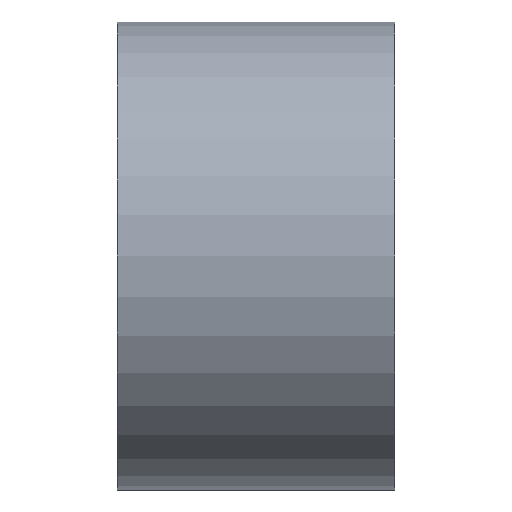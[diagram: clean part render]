
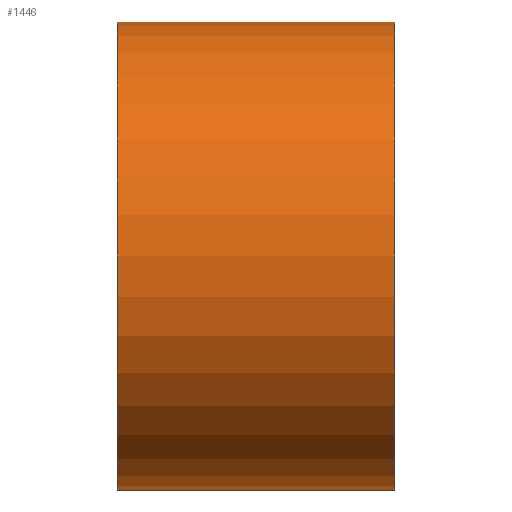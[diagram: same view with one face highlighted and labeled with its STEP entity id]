
A CAD part, front view. The second image highlights one B-rep face of the part: STEP entity #1446.
In plain terms, the highlighted cylindrical face has radius 109.5 mm (diameter 219 mm), a partial arc.
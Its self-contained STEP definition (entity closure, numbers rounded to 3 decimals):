
#41 = ORIENTED_EDGE ( 'NONE', *, *, #61, .T. ) ;
#48 = VERTEX_POINT ( 'NONE', #653 ) ;
#61 = EDGE_CURVE ( 'NONE', #1297, #1385, #744, .T. ) ;
#107 = EDGE_CURVE ( 'NONE', #123, #48, #1053, .T. ) ;
#123 = VERTEX_POINT ( 'NONE', #1145 ) ;
#124 = ORIENTED_EDGE ( 'NONE', *, *, #107, .F. ) ;
#175 = ORIENTED_EDGE ( 'NONE', *, *, #524, .T. ) ;
#440 = LINE ( 'NONE', #441, #442 ) ;
#441 = CARTESIAN_POINT ( 'NONE',  ( 0., 0., 109.5 ) ) ;
#442 = VECTOR ( 'NONE', #443, 1000. ) ;
#443 = DIRECTION ( 'NONE',  ( -1., 0., 0. ) ) ;
#480 = FACE_OUTER_BOUND ( 'NONE', #1433, .T. ) ;
#481 = CYLINDRICAL_SURFACE ( 'NONE', #482, 109.5 ) ;
#482 = AXIS2_PLACEMENT_3D ( 'NONE', #483, #484, #485 ) ;
#483 = CARTESIAN_POINT ( 'NONE',  ( 0., 0., 0. ) ) ;
#484 = DIRECTION ( 'NONE',  ( -1., 0., 0. ) ) ;
#485 = DIRECTION ( 'NONE',  ( 0., 0., 1. ) ) ;
#489 = LINE ( 'NONE', #490, #491 ) ;
#490 = CARTESIAN_POINT ( 'NONE',  ( 0., 0., -109.5 ) ) ;
#491 = VECTOR ( 'NONE', #492, 1000. ) ;
#492 = DIRECTION ( 'NONE',  ( -1., 0., 0. ) ) ;
#524 = EDGE_CURVE ( 'NONE', #1385, #48, #440, .T. ) ;
#577 = ORIENTED_EDGE ( 'NONE', *, *, #662, .F. ) ;
#653 = CARTESIAN_POINT ( 'NONE',  ( 0., 0., 109.5 ) ) ;
#662 = EDGE_CURVE ( 'NONE', #1297, #123, #489, .T. ) ;
#743 = CARTESIAN_POINT ( 'NONE',  ( 130., 0., 109.5 ) ) ;
#744 = CIRCLE ( 'NONE', #745, 109.5 ) ;
#745 = AXIS2_PLACEMENT_3D ( 'NONE', #746, #747, #748 ) ;
#746 = CARTESIAN_POINT ( 'NONE',  ( 130., 0., 0. ) ) ;
#747 = DIRECTION ( 'NONE',  ( -1., 0., 0. ) ) ;
#748 = DIRECTION ( 'NONE',  ( 0., 0., 1. ) ) ;
#977 = CARTESIAN_POINT ( 'NONE',  ( 130., 0., -109.5 ) ) ;
#1053 = CIRCLE ( 'NONE', #1054, 109.5 ) ;
#1054 = AXIS2_PLACEMENT_3D ( 'NONE', #1055, #1056, #1057 ) ;
#1055 = CARTESIAN_POINT ( 'NONE',  ( 0., 0., 0. ) ) ;
#1056 = DIRECTION ( 'NONE',  ( -1., 0., 0. ) ) ;
#1057 = DIRECTION ( 'NONE',  ( 0., 0., 1. ) ) ;
#1145 = CARTESIAN_POINT ( 'NONE',  ( 0., 0., -109.5 ) ) ;
#1297 = VERTEX_POINT ( 'NONE', #977 ) ;
#1385 = VERTEX_POINT ( 'NONE', #743 ) ;
#1433 = EDGE_LOOP ( 'NONE', ( #577, #41, #175, #124 ) ) ;
#1446 = ADVANCED_FACE ( 'NONE', ( #480 ), #481, .T. ) ;
